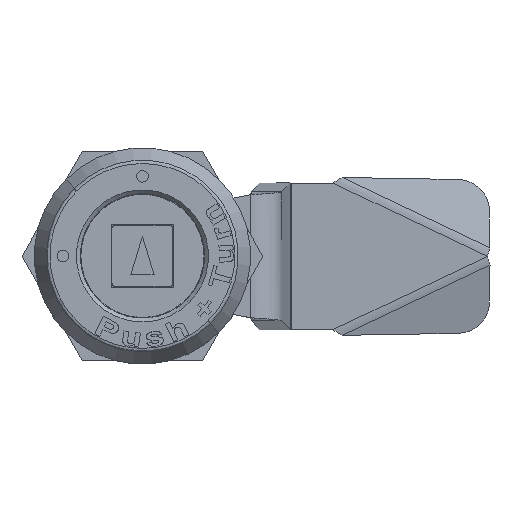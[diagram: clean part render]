
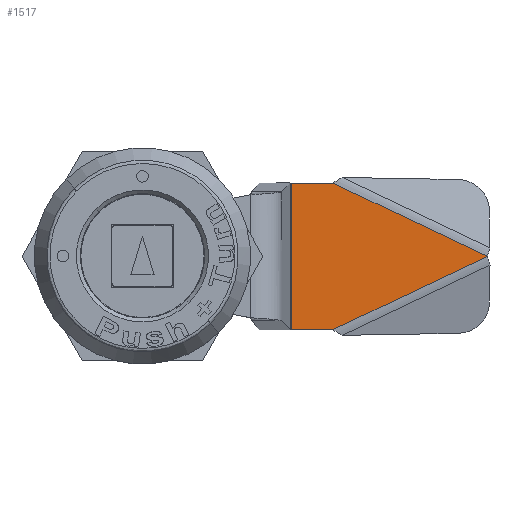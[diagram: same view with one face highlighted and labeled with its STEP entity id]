
A CAD part, top view. The second image highlights one B-rep face of the part: STEP entity #1517.
In plain terms, the highlighted planar face has unit normal (0, 0, 1) as drawn and (0, -1, 0) by its records, which use the part's own axes.
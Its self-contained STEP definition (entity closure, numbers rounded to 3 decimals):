
#325 = FACE_OUTER_BOUND ( 'NONE', #12013, .T. ) ;
#1126 = CARTESIAN_POINT ( 'NONE',  ( -19.283, 5.972, -9.5 ) ) ;
#1335 = ORIENTED_EDGE ( 'NONE', *, *, #19808, .F. ) ;
#1517 = ADVANCED_FACE ( 'NONE', ( #325 ), #21506, .F. ) ;
#1605 = ORIENTED_EDGE ( 'NONE', *, *, #22126, .F. ) ;
#3456 = LINE ( 'NONE', #19369, #8319 ) ;
#4107 = DIRECTION ( 'NONE',  ( 0., 1., 0. ) ) ;
#4762 = CARTESIAN_POINT ( 'NONE',  ( -24.649, 5.972, -9.5 ) ) ;
#4953 = CARTESIAN_POINT ( 'NONE',  ( -44.649, 5.972, 0. ) ) ;
#6038 = AXIS2_PLACEMENT_3D ( 'NONE', #16056, #4107, #16122 ) ;
#8319 = VECTOR ( 'NONE', #12602, 1000. ) ;
#8361 = VERTEX_POINT ( 'NONE', #20198 ) ;
#8442 = ORIENTED_EDGE ( 'NONE', *, *, #15262, .F. ) ;
#8511 = DIRECTION ( 'NONE',  ( 0.903, 0., 0.429 ) ) ;
#9082 = LINE ( 'NONE', #18832, #15563 ) ;
#9309 = LINE ( 'NONE', #20281, #12309 ) ;
#9669 = VERTEX_POINT ( 'NONE', #1126 ) ;
#10139 = DIRECTION ( 'NONE',  ( -1., 0., 0. ) ) ;
#10987 = CARTESIAN_POINT ( 'NONE',  ( -44.649, 5.972, 0. ) ) ;
#11179 = VECTOR ( 'NONE', #10139, 1000. ) ;
#11449 = ORIENTED_EDGE ( 'NONE', *, *, #18997, .F. ) ;
#12013 = EDGE_LOOP ( 'NONE', ( #11449, #8442, #1335, #1605, #13192 ) ) ;
#12309 = VECTOR ( 'NONE', #20127, 1000. ) ;
#12602 = DIRECTION ( 'NONE',  ( 0., 0., -1. ) ) ;
#13192 = ORIENTED_EDGE ( 'NONE', *, *, #18833, .F. ) ;
#13519 = CARTESIAN_POINT ( 'NONE',  ( -24.649, 5.972, 9.5 ) ) ;
#13702 = DIRECTION ( 'NONE',  ( -0.903, 0., 0.429 ) ) ;
#14569 = VERTEX_POINT ( 'NONE', #10987 ) ;
#15262 = EDGE_CURVE ( 'NONE', #18212, #14569, #9082, .T. ) ;
#15318 = CARTESIAN_POINT ( 'NONE',  ( 5.154, 5.972, -9.5 ) ) ;
#15563 = VECTOR ( 'NONE', #13702, 1000. ) ;
#16016 = LINE ( 'NONE', #15318, #11179 ) ;
#16056 = CARTESIAN_POINT ( 'NONE',  ( 5.154, 5.972, 0. ) ) ;
#16062 = LINE ( 'NONE', #4953, #19811 ) ;
#16122 = DIRECTION ( 'NONE',  ( 0., 0., 1. ) ) ;
#18212 = VERTEX_POINT ( 'NONE', #4762 ) ;
#18832 = CARTESIAN_POINT ( 'NONE',  ( -24.649, 5.972, -9.5 ) ) ;
#18833 = EDGE_CURVE ( 'NONE', #19807, #8361, #9309, .T. ) ;
#18997 = EDGE_CURVE ( 'NONE', #14569, #19807, #16062, .T. ) ;
#19369 = CARTESIAN_POINT ( 'NONE',  ( -19.283, 5.972, 0. ) ) ;
#19807 = VERTEX_POINT ( 'NONE', #13519 ) ;
#19808 = EDGE_CURVE ( 'NONE', #9669, #18212, #16016, .T. ) ;
#19811 = VECTOR ( 'NONE', #8511, 1000. ) ;
#20127 = DIRECTION ( 'NONE',  ( 1., 0., 0. ) ) ;
#20198 = CARTESIAN_POINT ( 'NONE',  ( -19.283, 5.972, 9.5 ) ) ;
#20281 = CARTESIAN_POINT ( 'NONE',  ( 5.154, 5.972, 9.5 ) ) ;
#21506 = PLANE ( 'NONE',  #6038 ) ;
#22126 = EDGE_CURVE ( 'NONE', #8361, #9669, #3456, .T. ) ;
